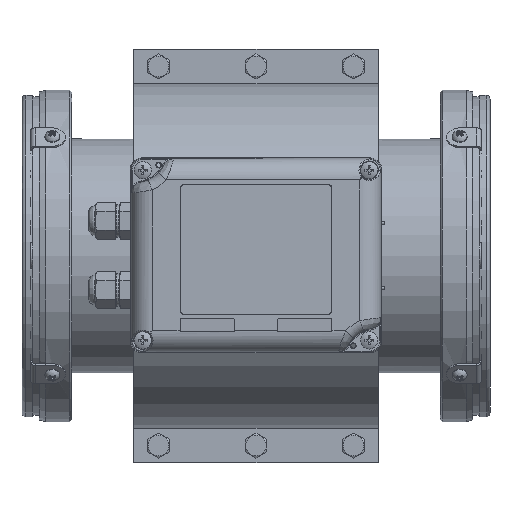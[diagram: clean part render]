
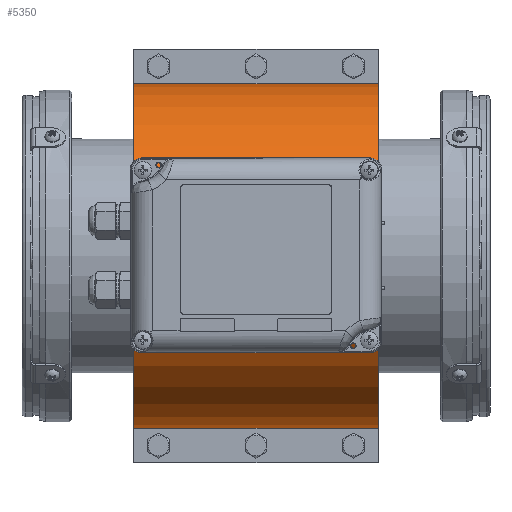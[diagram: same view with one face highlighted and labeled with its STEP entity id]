
A CAD part, top view. The second image highlights one B-rep face of the part: STEP entity #5350.
In plain terms, the highlighted cylindrical face has radius 79.5 mm (diameter 159 mm), a partial arc.
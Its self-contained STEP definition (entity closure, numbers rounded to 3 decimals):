
#5350=ADVANCED_FACE('',(#20977,#20979),#20981,.T.);
#20977=FACE_BOUND('',#20978,.T.);
#20978=EDGE_LOOP('',(#42721,#42722,#42723,#42724));
#20979=FACE_BOUND('',#20980,.T.);
#20980=EDGE_LOOP('',(#42725));
#20981=CYLINDRICAL_SURFACE('',#20982,79.5);
#20982=AXIS2_PLACEMENT_3D('',#20983,#20984,#20985);
#20983=CARTESIAN_POINT('',(-56.5,0.,0.));
#20984=DIRECTION('',(1.,0.,0.));
#20985=DIRECTION('',(0.,1.,0.));
#42721=ORIENTED_EDGE('',*,*,#49007,.T.);
#42722=ORIENTED_EDGE('',*,*,#49006,.T.);
#42723=ORIENTED_EDGE('',*,*,#49008,.T.);
#42724=ORIENTED_EDGE('',*,*,#49000,.F.);
#42725=ORIENTED_EDGE('',*,*,#49009,.T.);
#49000=EDGE_CURVE('',#53341,#53343,#53344,.T.);
#49006=EDGE_CURVE('',#53348,#53353,#53355,.T.);
#49007=EDGE_CURVE('',#53341,#53348,#53356,.F.);
#49008=EDGE_CURVE('',#53353,#53343,#53357,.T.);
#49009=EDGE_CURVE('',#53358,#53358,#53359,.F.);
#53341=VERTEX_POINT('',#62790);
#53343=VERTEX_POINT('',#62794);
#53344=CIRCLE('',#62795,79.5);
#53348=VERTEX_POINT('',#62807);
#53353=VERTEX_POINT('',#62817);
#53355=CIRCLE('',#62821,79.5);
#53356=LINE('',#62825,#62826);
#53357=LINE('',#62828,#62829);
#53358=VERTEX_POINT('',#62831);
#53359=B_SPLINE_CURVE_WITH_KNOTS('',3,
(#62832,#62833,#62834,#62835,#62836,#62837,#62838,#62839,#62840,#62841,#62842,#62843,
#62844,#62845,#62846,#62847,#62848,#62849,#62850,#62851,#62852,#62853,#62854,#62855,
#62856,#62857,#62858,#62859,#62860,#62861,#62862,#62863,#62864,#62865,#62866,#62867,
#62868,#62869,#62870,#62871,#62872,#62873,#62874,#62875,#62876,#62877,#62878,#62879,
#62880,#62881,#62882,#62883,#62884,#62885,#62886,#62887,#62888,#62889,#62890,#62891,
#62892,#62893,#62894,#62895,#62896,#62897,#62898,#62899,#62900,#62901,#62902),
.UNSPECIFIED.,.T.,.F.,
(4,1,1,1,1,1,1,1,1,1,1,1,1,1,1,1,1,1,1,1,1,1,1,1,1,1,1,1,1,1,1,1,1,1,1,1,1,1,1,1,
1,1,1,1,1,1,1,1,1,1,1,1,1,1,1,1,1,1,1,1,1,1,1,1,1,1,1,1,4),
(0.,0.01,0.023,0.038,0.053,
0.067,0.083,0.099,0.116,0.131,
0.146,0.161,0.179,0.199,0.215,
0.228,0.237,0.246,0.25,0.256,
0.266,0.277,0.288,0.302,0.319,
0.337,0.352,0.367,0.382,0.4,
0.419,0.439,0.459,0.478,0.498,
0.5,0.518,0.538,0.558,0.578,
0.596,0.614,0.631,0.647,0.667,
0.686,0.704,0.716,0.726,0.735,
0.745,0.75,0.755,0.765,0.775,
0.786,0.8,0.817,0.835,0.851,
0.865,0.88,0.898,0.917,0.936,
0.954,0.97,0.986,1.),
.UNSPECIFIED.);
#62790=CARTESIAN_POINT('',(56.5,79.494,1.));
#62794=CARTESIAN_POINT('',(56.5,-79.494,1.));
#62795=AXIS2_PLACEMENT_3D('',#62796,#62797,#62798);
#62796=CARTESIAN_POINT('',(56.5,0.,0.));
#62797=DIRECTION('',(1.,0.,0.));
#62798=DIRECTION('',(0.,1.,0.013));
#62807=CARTESIAN_POINT('',(-56.5,79.494,1.));
#62817=CARTESIAN_POINT('',(-56.5,-79.494,1.));
#62821=AXIS2_PLACEMENT_3D('',#62822,#62823,#62824);
#62822=CARTESIAN_POINT('',(-56.5,0.,0.));
#62823=DIRECTION('',(1.,0.,0.));
#62824=DIRECTION('',(0.,1.,0.013));
#62825=CARTESIAN_POINT('',(-56.5,79.494,1.));
#62826=VECTOR('',#62827,1.);
#62827=DIRECTION('',(1.,0.,0.));
#62828=CARTESIAN_POINT('',(-56.5,-79.494,1.));
#62829=VECTOR('',#62830,1.);
#62830=DIRECTION('',(1.,0.,0.));
#62831=CARTESIAN_POINT('',(0.,9.5,78.93));
#62832=CARTESIAN_POINT('',(0.,9.5,78.93));
#62833=CARTESIAN_POINT('',(-0.198,9.5,78.93));
#62834=CARTESIAN_POINT('',(-0.66,9.486,78.932));
#62835=CARTESIAN_POINT('',(-1.403,9.408,78.941));
#62836=CARTESIAN_POINT('',(-2.246,9.245,78.961));
#62837=CARTESIAN_POINT('',(-3.089,8.998,78.989));
#62838=CARTESIAN_POINT('',(-3.926,8.666,79.027));
#62839=CARTESIAN_POINT('',(-4.748,8.247,79.072));
#62840=CARTESIAN_POINT('',(-5.561,7.723,79.125));
#62841=CARTESIAN_POINT('',(-6.317,7.117,79.182));
#62842=CARTESIAN_POINT('',(-6.977,6.469,79.237));
#62843=CARTESIAN_POINT('',(-7.56,5.777,79.291));
#62844=CARTESIAN_POINT('',(-8.101,4.995,79.344));
#62845=CARTESIAN_POINT('',(-8.612,4.063,79.398));
#62846=CARTESIAN_POINT('',(-9.013,3.066,79.443));
#62847=CARTESIAN_POINT('',(-9.27,2.135,79.473));
#62848=CARTESIAN_POINT('',(-9.403,1.401,79.488));
#62849=CARTESIAN_POINT('',(-9.472,0.792,79.497));
#62850=CARTESIAN_POINT('',(-9.497,0.346,79.5));
#62851=CARTESIAN_POINT('',(-9.501,-0.042,79.5));
#62852=CARTESIAN_POINT('',(-9.494,-0.44,79.499));
#62853=CARTESIAN_POINT('',(-9.457,-0.967,79.495));
#62854=CARTESIAN_POINT('',(-9.373,-1.589,79.485));
#62855=CARTESIAN_POINT('',(-9.231,-2.288,79.468));
#62856=CARTESIAN_POINT('',(-8.996,-3.102,79.441));
#62857=CARTESIAN_POINT('',(-8.632,-4.013,79.401));
#62858=CARTESIAN_POINT('',(-8.159,-4.9,79.35));
#62859=CARTESIAN_POINT('',(-7.627,-5.687,79.297));
#62860=CARTESIAN_POINT('',(-7.053,-6.385,79.244));
#62861=CARTESIAN_POINT('',(-6.385,-7.058,79.187));
#62862=CARTESIAN_POINT('',(-5.582,-7.713,79.126));
#62863=CARTESIAN_POINT('',(-4.636,-8.319,79.064));
#62864=CARTESIAN_POINT('',(-3.583,-8.825,79.009));
#62865=CARTESIAN_POINT('',(-2.455,-9.203,78.966));
#62866=CARTESIAN_POINT('',(-1.29,-9.437,78.938));
#62867=CARTESIAN_POINT('',(-0.465,-9.498,78.931));
#62868=CARTESIAN_POINT('',(0.326,-9.502,78.93));
#62869=CARTESIAN_POINT('',(1.116,-9.457,78.936));
#62870=CARTESIAN_POINT('',(2.251,-9.255,78.96));
#62871=CARTESIAN_POINT('',(3.385,-8.903,79.));
#62872=CARTESIAN_POINT('',(4.446,-8.422,79.053));
#62873=CARTESIAN_POINT('',(5.403,-7.839,79.113));
#62874=CARTESIAN_POINT('',(6.237,-7.19,79.175));
#62875=CARTESIAN_POINT('',(6.965,-6.485,79.236));
#62876=CARTESIAN_POINT('',(7.646,-5.673,79.299));
#62877=CARTESIAN_POINT('',(8.255,-4.75,79.36));
#62878=CARTESIAN_POINT('',(8.757,-3.738,79.414));
#62879=CARTESIAN_POINT('',(9.084,-2.828,79.451));
#62880=CARTESIAN_POINT('',(9.282,-2.059,79.474));
#62881=CARTESIAN_POINT('',(9.395,-1.446,79.488));
#62882=CARTESIAN_POINT('',(9.466,-0.871,79.496));
#62883=CARTESIAN_POINT('',(9.495,-0.396,79.499));
#62884=CARTESIAN_POINT('',(9.502,-0.006,79.5));
#62885=CARTESIAN_POINT('',(9.495,0.392,79.499));
#62886=CARTESIAN_POINT('',(9.464,0.894,79.496));
#62887=CARTESIAN_POINT('',(9.386,1.511,79.486));
#62888=CARTESIAN_POINT('',(9.252,2.201,79.471));
#62889=CARTESIAN_POINT('',(9.028,3.007,79.445));
#62890=CARTESIAN_POINT('',(8.676,3.917,79.405));
#62891=CARTESIAN_POINT('',(8.214,4.807,79.356));
#62892=CARTESIAN_POINT('',(7.691,5.6,79.304));
#62893=CARTESIAN_POINT('',(7.124,6.305,79.251));
#62894=CARTESIAN_POINT('',(6.464,6.985,79.193));
#62895=CARTESIAN_POINT('',(5.668,7.65,79.132));
#62896=CARTESIAN_POINT('',(4.744,8.257,79.071));
#62897=CARTESIAN_POINT('',(3.747,8.753,79.017));
#62898=CARTESIAN_POINT('',(2.748,9.113,78.976));
#62899=CARTESIAN_POINT('',(1.787,9.346,78.949));
#62900=CARTESIAN_POINT('',(0.879,9.473,78.934));
#62901=CARTESIAN_POINT('',(0.287,9.5,78.93));
#62902=CARTESIAN_POINT('',(0.,9.5,78.93));
